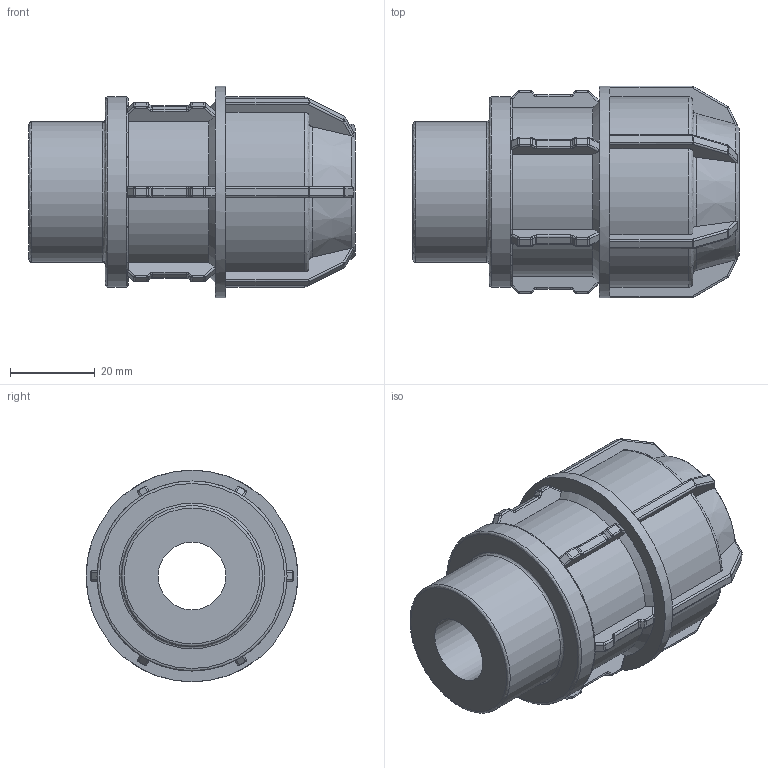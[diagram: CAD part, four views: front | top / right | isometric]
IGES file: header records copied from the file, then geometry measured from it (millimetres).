
Global section: file name: 140200020010.ipt; native system: Autodesk Inventor 2015; preprocessor: unknown; author: KIM; date: 20180409.130929; units: millimetre
Bounding box: 77 x 50 x 50 mm (x, y, z)
Volume: 77573.9 mm3; surface area: 19548.1 mm2
Topology: 1 solids, 1 shells, 471 faces, 1184 edges, 708 vertices
Faces by surface type: cylinder 171, plane 159, revolution 129, cone 12
Full cylindrical faces by diameter (mm): 33.249 x1, 44.886 x1, 50 x1
